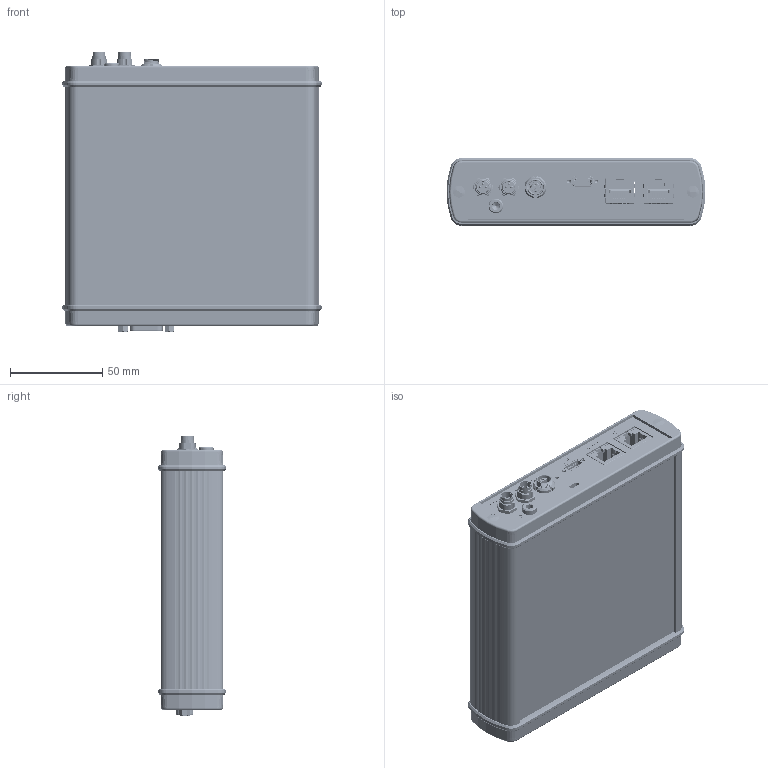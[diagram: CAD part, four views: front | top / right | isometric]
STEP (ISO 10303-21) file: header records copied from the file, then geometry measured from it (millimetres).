
FILE_DESCRIPTION(/* description */ (''),/* implementation_level */ '2;1');
FILE_NAME(/* name */ 'C:\Users\visnsg\Documents\Projekte\VN5620A\Kundenmodell\VN5620A.stp',/* time_stamp */ '2024-06-21T16:14:52+02:00',/* author */ ('visnsg'),/* organization */ (''),/* preprocessor_version */ 'ST-DEVELOPER v18.1',/* originating_system */ 'Autodesk Inventor 2022',/* authorisation */ '');
FILE_SCHEMA (('AUTOMOTIVE_DESIGN { 1 0 10303 214 3 1 1 }'));
Products named in the file (1): VN5620A
Bounding box: 140.6 x 36.6 x 151.67 mm (x, y, z)
Surface area: 277644.3 mm2 (no closed solid volume)
Topology: 0 solids, 74 shells, 9841 faces, 26997 edges, 17389 vertices
Faces by surface type: plane 5671, cylinder 2708, bspline 865, cone 395, torus 133, sphere 69
Full cylindrical faces by diameter (mm): 0.001 x24, 0.4 x1, 0.6 x19, 0.7 x6, 0.8 x18, 0.85 x8, 0.9 x35, 1 x48, 1.1 x7, 1.2 x5, 1.3 x6, 1.42 x2, 1.5 x2, 1.567 x2, 1.6 x6, 1.65 x2, 1.8 x2, 2 x23, 2.05 x2, 2.1 x1, 2.156 x4, 2.3 x2, 2.4 x2, 2.459 x6, 2.5 x3, 2.54 x2, 2.8 x4, 3 x1, 3.02 x2, 3.2 x2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
Entity records: 356197 total; most frequent: CARTESIAN_POINT 98370, ORIENTED_EDGE 53886, DIRECTION 48802, EDGE_CURVE 26943, LINE 18136, VECTOR 18136, VERTEX_POINT 17389, AXIS2_PLACEMENT_3D 15333
